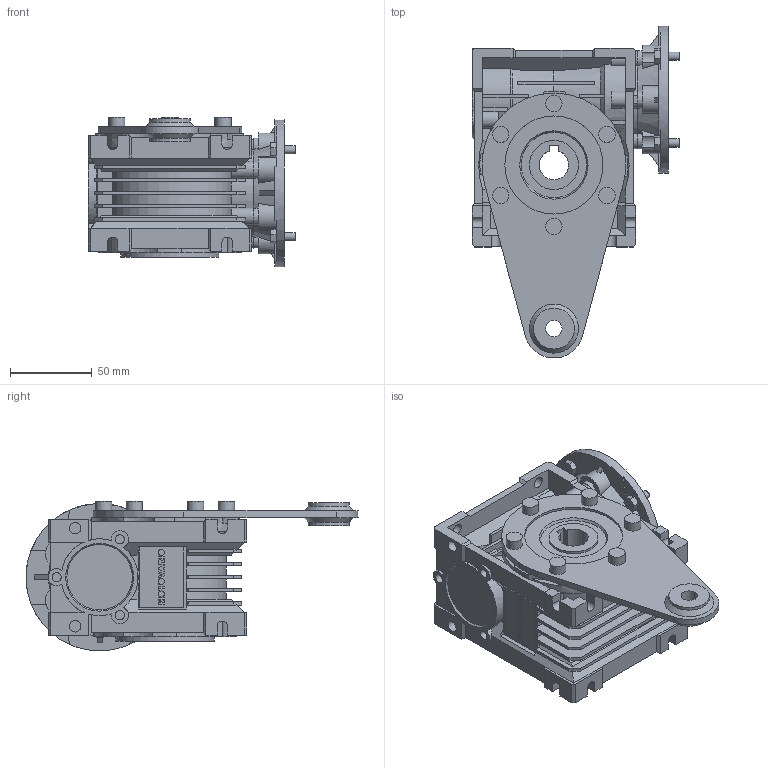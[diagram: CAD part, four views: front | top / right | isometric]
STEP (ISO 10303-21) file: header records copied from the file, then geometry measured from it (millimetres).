
FILE_DESCRIPTION(/* description */ ('STEP AP203'),/* implementation_level */ '2;1');
FILE_NAME(/* name */ 'NMRV0401271811100150NO---_---------------',/* time_stamp */ '2025-12-03T05:22:33+01:00',/* author */ ('License CC BY-ND 4.0'),/* organization */ ('CADENAS'),/* preprocessor_version */ 'ST-DEVELOPER v20',/* originating_system */ 'PARTsolutions',/* authorisation */ ' ');
FILE_SCHEMA (('CONFIG_CONTROL_DESIGN'));
Length unit declared in the file: millimetre
Products named in the file (6): NMRV0401271811100150NO---(---------------); Gear unit 40; 040-18 (78)alc-n; 40-100; VB 040-11 (11); 40-63 B14
Assembly tree (5 placements, depth 2):
  NMRV0401271811100150NO---(---------------)
    Gear unit 40
    040-18 (78)alc-n
    40-100
    VB 040-11 (11)
    40-63 B14
Bounding box: 127 x 202.93 x 91.5 mm (x, y, z)
Volume: 702507.7 mm3; surface area: 179431.2 mm2
Topology: 5 solids, 5 shells, 909 faces, 2484 edges, 1625 vertices
Faces by surface type: plane 620, cylinder 215, cone 72, torus 2
Full cylindrical faces by diameter (mm): 4.917 x8, 5 x4, 5.55 x3, 6.05 x4, 7 x6, 10 x13, 10.8 x4, 16 x1, 23 x2, 25 x2, 28 x1, 30 x2, 35 x1, 36 x1, 40 x1, 47 x1, 60 x3, 75 x1, 90 x1
Entity records: 28451 total; most frequent: CARTESIAN_POINT 5573, ORIENTED_EDGE 4734, DIRECTION 4666, EDGE_CURVE 2367, AXIS2_PLACEMENT_3D 1600, VERTEX_POINT 1594, LINE 1466, VECTOR 1466
